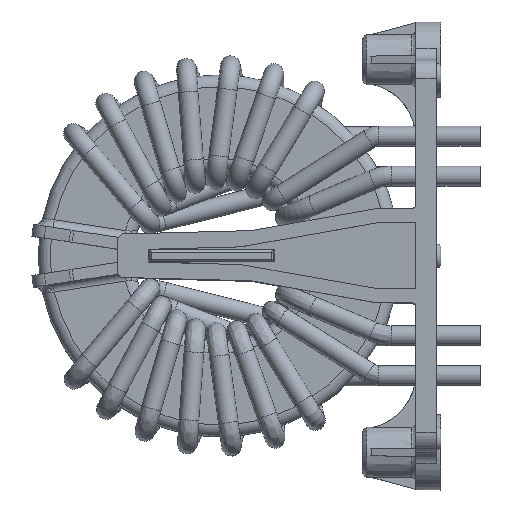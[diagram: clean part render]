
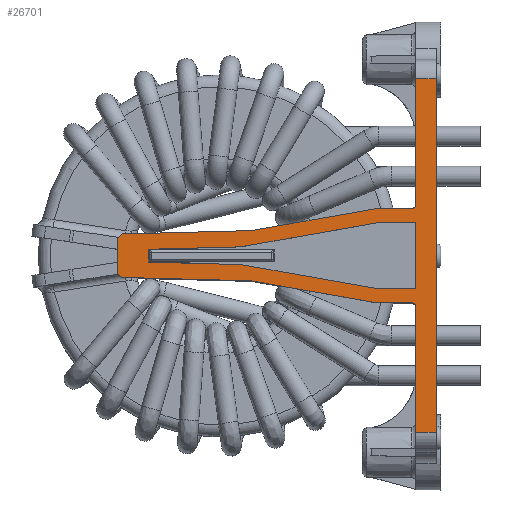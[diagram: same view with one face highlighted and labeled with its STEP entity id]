
A CAD part, top view. The second image highlights one B-rep face of the part: STEP entity #26701.
In plain terms, the highlighted planar face has unit normal (0, 0, 1).
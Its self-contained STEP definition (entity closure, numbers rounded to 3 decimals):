
#16530=CARTESIAN_POINT('',(-13.,3.25,31.9));
#16531=VERTEX_POINT('',#16530);
#16538=CARTESIAN_POINT('',(-12.5,3.763,31.9));
#16539=VERTEX_POINT('',#16538);
#16540=CARTESIAN_POINT('',(-13.,3.25,31.9));
#16541=DIRECTION('',(0.698,0.716,0.0));
#16542=VECTOR('',#16541,0.716);
#16543=LINE('',#16540,#16542);
#16544=EDGE_CURVE('',#16531,#16539,#16543,.T.);
#16601=CARTESIAN_POINT('',(-13.,-1.25,31.9));
#16602=VERTEX_POINT('',#16601);
#16609=CARTESIAN_POINT('',(-13.,-1.25,31.9));
#16610=DIRECTION('',(0.0,1.0,0.0));
#16611=VECTOR('',#16610,4.5);
#16612=LINE('',#16609,#16611);
#16613=EDGE_CURVE('',#16602,#16531,#16612,.T.);
#16784=CARTESIAN_POINT('',(-12.5,-1.763,31.9));
#16785=VERTEX_POINT('',#16784);
#16792=CARTESIAN_POINT('',(-12.5,-1.763,31.9));
#16793=DIRECTION('',(-0.698,0.716,0.));
#16794=VECTOR('',#16793,0.716);
#16795=LINE('',#16792,#16794);
#16796=EDGE_CURVE('',#16785,#16602,#16795,.T.);
#16809=CARTESIAN_POINT('',(4.109,-2.198,31.9));
#16810=VERTEX_POINT('',#16809);
#16817=CARTESIAN_POINT('',(4.109,-2.198,31.9));
#16818=DIRECTION('',(-1.,0.026,0.));
#16819=VECTOR('',#16818,16.615);
#16820=LINE('',#16817,#16819);
#16821=EDGE_CURVE('',#16810,#16785,#16820,.T.);
#18901=CARTESIAN_POINT('',(24.5,7.,31.9));
#18902=VERTEX_POINT('',#18901);
#18909=CARTESIAN_POINT('',(25.,7.5,31.9));
#18910=VERTEX_POINT('',#18909);
#18911=CARTESIAN_POINT('',(24.5,7.5,31.9));
#18912=DIRECTION('',(0.,0.,1.0));
#18913=DIRECTION('',(0.707,-0.707,0.));
#18914=AXIS2_PLACEMENT_3D('',#18911,#18912,#18913);
#18915=CIRCLE('',#18914,0.5);
#18916=EDGE_CURVE('',#18902,#18910,#18915,.T.);
#19015=CARTESIAN_POINT('',(25.,23.5,31.9));
#19016=VERTEX_POINT('',#19015);
#19017=CARTESIAN_POINT('',(25.,7.5,31.9));
#19018=DIRECTION('',(0.0,1.0,0.0));
#19019=VECTOR('',#19018,16.);
#19020=LINE('',#19017,#19019);
#19021=EDGE_CURVE('',#18910,#19016,#19020,.T.);
#19287=CARTESIAN_POINT('',(20.,7.,31.9));
#19288=VERTEX_POINT('',#19287);
#19295=CARTESIAN_POINT('',(20.,7.,31.9));
#19296=DIRECTION('',(1.0,0.0,0.0));
#19297=VECTOR('',#19296,4.5);
#19298=LINE('',#19295,#19297);
#19299=EDGE_CURVE('',#19288,#18902,#19298,.T.);
#19309=CARTESIAN_POINT('',(25.,-5.5,31.9));
#19310=VERTEX_POINT('',#19309);
#19311=CARTESIAN_POINT('',(24.5,-5.,31.9));
#19312=VERTEX_POINT('',#19311);
#19313=CARTESIAN_POINT('',(24.5,-5.5,31.9));
#19314=DIRECTION('',(0.,0.,1.0));
#19315=DIRECTION('',(0.707,0.707,0.));
#19316=AXIS2_PLACEMENT_3D('',#19313,#19314,#19315);
#19317=CIRCLE('',#19316,0.5);
#19318=EDGE_CURVE('',#19310,#19312,#19317,.T.);
#19544=CARTESIAN_POINT('',(25.,-21.5,31.9));
#19545=VERTEX_POINT('',#19544);
#19553=CARTESIAN_POINT('',(25.,-21.5,31.9));
#19554=DIRECTION('',(0.0,1.0,0.0));
#19555=VECTOR('',#19554,16.);
#19556=LINE('',#19553,#19555);
#19557=EDGE_CURVE('',#19545,#19310,#19556,.T.);
#23559=CARTESIAN_POINT('',(-9.,1.82,31.9));
#23560=VERTEX_POINT('',#23559);
#23567=CARTESIAN_POINT('',(-9.,0.18,31.9));
#23568=VERTEX_POINT('',#23567);
#23569=CARTESIAN_POINT('',(-9.,0.18,31.9));
#23570=DIRECTION('',(0.0,1.0,0.0));
#23571=VECTOR('',#23570,1.64);
#23572=LINE('',#23569,#23571);
#23573=EDGE_CURVE('',#23568,#23560,#23572,.T.);
#23591=CARTESIAN_POINT('',(2.729,-0.127,31.9));
#23592=VERTEX_POINT('',#23591);
#23593=CARTESIAN_POINT('',(2.729,-0.127,31.9));
#23594=DIRECTION('',(-1.,0.026,0.));
#23595=VECTOR('',#23594,11.733);
#23596=LINE('',#23593,#23595);
#23597=EDGE_CURVE('',#23592,#23568,#23596,.T.);
#23615=CARTESIAN_POINT('',(20.157,-3.2,31.9));
#23616=VERTEX_POINT('',#23615);
#23617=CARTESIAN_POINT('',(20.157,-3.2,31.9));
#23618=DIRECTION('',(-0.985,0.174,0.));
#23619=VECTOR('',#23618,17.697);
#23620=LINE('',#23617,#23619);
#23621=EDGE_CURVE('',#23616,#23592,#23620,.T.);
#23639=CARTESIAN_POINT('',(25.,-3.2,31.9));
#23640=VERTEX_POINT('',#23639);
#23641=CARTESIAN_POINT('',(25.,-3.2,31.9));
#23642=DIRECTION('',(-1.0,0.0,0.0));
#23643=VECTOR('',#23642,4.843);
#23644=LINE('',#23641,#23643);
#23645=EDGE_CURVE('',#23640,#23616,#23644,.T.);
#23663=CARTESIAN_POINT('',(25.,5.2,31.9));
#23664=VERTEX_POINT('',#23663);
#23665=CARTESIAN_POINT('',(25.,5.2,31.9));
#23666=DIRECTION('',(0.0,-1.0,0.0));
#23667=VECTOR('',#23666,8.4);
#23668=LINE('',#23665,#23667);
#23669=EDGE_CURVE('',#23664,#23640,#23668,.T.);
#23687=CARTESIAN_POINT('',(20.157,5.2,31.9));
#23688=VERTEX_POINT('',#23687);
#23689=CARTESIAN_POINT('',(20.157,5.2,31.9));
#23690=DIRECTION('',(1.0,0.0,0.0));
#23691=VECTOR('',#23690,4.843);
#23692=LINE('',#23689,#23691);
#23693=EDGE_CURVE('',#23688,#23664,#23692,.T.);
#23711=CARTESIAN_POINT('',(2.729,2.127,31.9));
#23712=VERTEX_POINT('',#23711);
#23713=CARTESIAN_POINT('',(2.729,2.127,31.9));
#23714=DIRECTION('',(0.985,0.174,0.));
#23715=VECTOR('',#23714,17.697);
#23716=LINE('',#23713,#23715);
#23717=EDGE_CURVE('',#23712,#23688,#23716,.T.);
#23735=CARTESIAN_POINT('',(-9.,1.82,31.9));
#23736=DIRECTION('',(1.,0.026,0.));
#23737=VECTOR('',#23736,11.733);
#23738=LINE('',#23735,#23737);
#23739=EDGE_CURVE('',#23560,#23712,#23738,.T.);
#23751=CARTESIAN_POINT('',(20.,-5.,31.9));
#23752=VERTEX_POINT('',#23751);
#23759=CARTESIAN_POINT('',(20.,-5.,31.9));
#23760=DIRECTION('',(-0.985,0.174,0.));
#23761=VECTOR('',#23760,16.136);
#23762=LINE('',#23759,#23761);
#23763=EDGE_CURVE('',#23752,#16810,#23762,.T.);
#23775=CARTESIAN_POINT('',(4.109,4.198,31.9));
#23776=VERTEX_POINT('',#23775);
#23777=CARTESIAN_POINT('',(-12.5,3.763,31.9));
#23778=DIRECTION('',(1.,0.026,0.));
#23779=VECTOR('',#23778,16.615);
#23780=LINE('',#23777,#23779);
#23781=EDGE_CURVE('',#16539,#23776,#23780,.T.);
#23800=CARTESIAN_POINT('',(4.109,4.198,31.9));
#23801=DIRECTION('',(0.985,0.174,0.));
#23802=VECTOR('',#23801,16.136);
#23803=LINE('',#23800,#23802);
#23804=EDGE_CURVE('',#23776,#19288,#23803,.T.);
#24998=CARTESIAN_POINT('',(24.5,-5.,31.9));
#24999=DIRECTION('',(-1.0,0.0,0.0));
#25000=VECTOR('',#24999,4.5);
#25001=LINE('',#24998,#25000);
#25002=EDGE_CURVE('',#19312,#23752,#25001,.T.);
#26636=CARTESIAN_POINT('',(27.6,-21.5,31.9));
#26637=VERTEX_POINT('',#26636);
#26638=CARTESIAN_POINT('',(25.,-21.5,31.9));
#26639=DIRECTION('',(1.0,0.0,0.0));
#26640=VECTOR('',#26639,2.6);
#26641=LINE('',#26638,#26640);
#26642=EDGE_CURVE('',#19545,#26637,#26641,.T.);
#26656=CARTESIAN_POINT('',(25.,-24.,31.9));
#26657=DIRECTION('',(0.0,0.0,1.0));
#26658=DIRECTION('',(-1.0,0.0,0.0));
#26659=AXIS2_PLACEMENT_3D('',#26656,#26657,#26658);
#26660=PLANE('',#26659);
#26661=ORIENTED_EDGE('',*,*,#16544,.F.);
#26662=ORIENTED_EDGE('',*,*,#16613,.F.);
#26663=ORIENTED_EDGE('',*,*,#16796,.F.);
#26664=ORIENTED_EDGE('',*,*,#16821,.F.);
#26665=ORIENTED_EDGE('',*,*,#23763,.F.);
#26666=ORIENTED_EDGE('',*,*,#25002,.F.);
#26667=ORIENTED_EDGE('',*,*,#19318,.F.);
#26668=ORIENTED_EDGE('',*,*,#19557,.F.);
#26669=ORIENTED_EDGE('',*,*,#26642,.T.);
#26670=CARTESIAN_POINT('',(27.6,23.5,31.9));
#26671=VERTEX_POINT('',#26670);
#26672=CARTESIAN_POINT('',(27.6,-21.5,31.9));
#26673=DIRECTION('',(0.0,1.0,0.0));
#26674=VECTOR('',#26673,45.0);
#26675=LINE('',#26672,#26674);
#26676=EDGE_CURVE('',#26637,#26671,#26675,.T.);
#26677=ORIENTED_EDGE('',*,*,#26676,.T.);
#26678=CARTESIAN_POINT('',(25.,23.5,31.9));
#26679=DIRECTION('',(1.0,0.0,0.0));
#26680=VECTOR('',#26679,2.6);
#26681=LINE('',#26678,#26680);
#26682=EDGE_CURVE('',#19016,#26671,#26681,.T.);
#26683=ORIENTED_EDGE('',*,*,#26682,.F.);
#26684=ORIENTED_EDGE('',*,*,#19021,.F.);
#26685=ORIENTED_EDGE('',*,*,#18916,.F.);
#26686=ORIENTED_EDGE('',*,*,#19299,.F.);
#26687=ORIENTED_EDGE('',*,*,#23804,.F.);
#26688=ORIENTED_EDGE('',*,*,#23781,.F.);
#26689=EDGE_LOOP('',(#26661,#26662,#26663,#26664,#26665,#26666,#26667,#26668,#26669,#26677,#26683,#26684,#26685,#26686,#26687,#26688));
#26690=FACE_OUTER_BOUND('',#26689,.T.);
#26691=ORIENTED_EDGE('',*,*,#23739,.T.);
#26692=ORIENTED_EDGE('',*,*,#23717,.T.);
#26693=ORIENTED_EDGE('',*,*,#23693,.T.);
#26694=ORIENTED_EDGE('',*,*,#23669,.T.);
#26695=ORIENTED_EDGE('',*,*,#23645,.T.);
#26696=ORIENTED_EDGE('',*,*,#23621,.T.);
#26697=ORIENTED_EDGE('',*,*,#23597,.T.);
#26698=ORIENTED_EDGE('',*,*,#23573,.T.);
#26699=EDGE_LOOP('',(#26691,#26692,#26693,#26694,#26695,#26696,#26697,#26698));
#26700=FACE_BOUND('',#26699,.T.);
#26701=ADVANCED_FACE('',(#26690,#26700),#26660,.T.);
